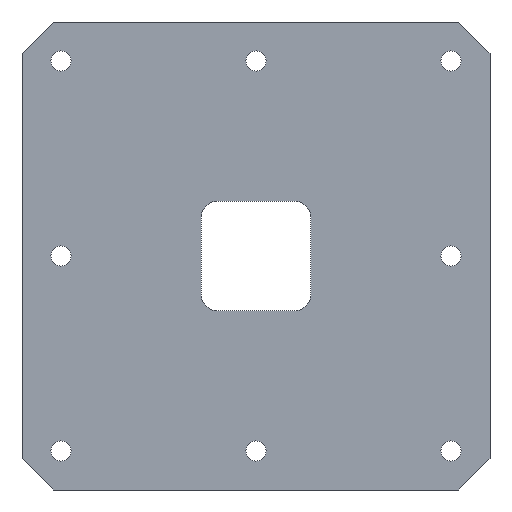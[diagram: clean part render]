
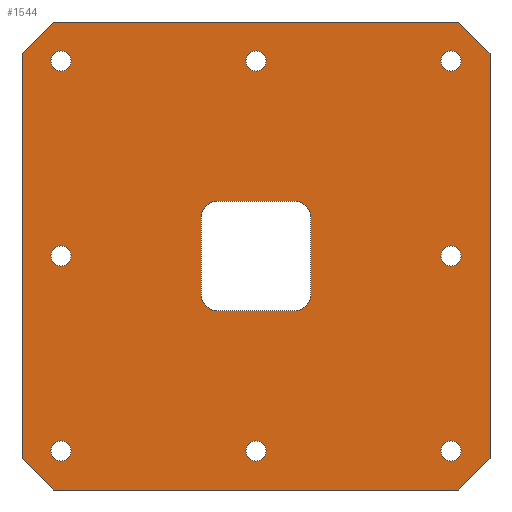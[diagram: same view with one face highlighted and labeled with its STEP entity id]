
A CAD part, front view. The second image highlights one B-rep face of the part: STEP entity #1544.
In plain terms, the highlighted planar face has unit normal (0, -1, 0).
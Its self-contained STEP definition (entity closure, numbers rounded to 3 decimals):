
#1=DIRECTION('',(-0.707,0.,-0.707));
#2=VECTOR('',#1,28.284);
#3=CARTESIAN_POINT('',(-130.,-25.,150.));
#4=LINE('',#3,#2);
#5=DIRECTION('',(1.,0.,0.));
#6=VECTOR('',#5,260.);
#7=CARTESIAN_POINT('',(-130.,-25.,150.));
#8=LINE('',#7,#6);
#9=DIRECTION('',(-0.707,0.,0.707));
#10=VECTOR('',#9,28.284);
#11=CARTESIAN_POINT('',(150.,-25.,130.));
#12=LINE('',#11,#10);
#13=DIRECTION('',(0.,0.,-1.));
#14=VECTOR('',#13,260.);
#15=CARTESIAN_POINT('',(150.,-25.,130.));
#16=LINE('',#15,#14);
#17=DIRECTION('',(0.707,0.,0.707));
#18=VECTOR('',#17,28.284);
#19=CARTESIAN_POINT('',(130.,-25.,-150.));
#20=LINE('',#19,#18);
#21=DIRECTION('',(-1.,0.,0.));
#22=VECTOR('',#21,260.);
#23=CARTESIAN_POINT('',(130.,-25.,-150.));
#24=LINE('',#23,#22);
#25=DIRECTION('',(0.707,0.,-0.707));
#26=VECTOR('',#25,28.284);
#27=CARTESIAN_POINT('',(-150.,-25.,-130.));
#28=LINE('',#27,#26);
#29=DIRECTION('',(0.,0.,1.));
#30=VECTOR('',#29,260.);
#31=CARTESIAN_POINT('',(-150.,-25.,-130.));
#32=LINE('',#31,#30);
#33=CARTESIAN_POINT('',(-125.,-25.,125.));
#34=DIRECTION('',(0.,1.,0.));
#35=DIRECTION('',(1.,0.,0.));
#36=AXIS2_PLACEMENT_3D('',#33,#34,#35);
#38=CARTESIAN_POINT('',(-125.,-25.,125.));
#39=DIRECTION('',(0.,1.,0.));
#40=DIRECTION('',(-1.,0.,0.));
#41=AXIS2_PLACEMENT_3D('',#38,#39,#40);
#43=CARTESIAN_POINT('',(0.,-25.,125.));
#44=DIRECTION('',(0.,1.,0.));
#45=DIRECTION('',(1.,0.,0.));
#46=AXIS2_PLACEMENT_3D('',#43,#44,#45);
#48=CARTESIAN_POINT('',(0.,-25.,125.));
#49=DIRECTION('',(0.,1.,0.));
#50=DIRECTION('',(-1.,0.,0.));
#51=AXIS2_PLACEMENT_3D('',#48,#49,#50);
#53=CARTESIAN_POINT('',(125.,-25.,125.));
#54=DIRECTION('',(0.,1.,0.));
#55=DIRECTION('',(1.,0.,0.));
#56=AXIS2_PLACEMENT_3D('',#53,#54,#55);
#58=CARTESIAN_POINT('',(125.,-25.,125.));
#59=DIRECTION('',(0.,1.,0.));
#60=DIRECTION('',(-1.,0.,0.));
#61=AXIS2_PLACEMENT_3D('',#58,#59,#60);
#63=CARTESIAN_POINT('',(-125.,-25.,-125.));
#64=DIRECTION('',(0.,1.,0.));
#65=DIRECTION('',(0.,0.,1.));
#66=AXIS2_PLACEMENT_3D('',#63,#64,#65);
#68=CARTESIAN_POINT('',(-125.,-25.,-125.));
#69=DIRECTION('',(0.,1.,0.));
#70=DIRECTION('',(0.,0.,-1.));
#71=AXIS2_PLACEMENT_3D('',#68,#69,#70);
#73=CARTESIAN_POINT('',(-125.,-25.,0.));
#74=DIRECTION('',(0.,1.,0.));
#75=DIRECTION('',(0.,0.,1.));
#76=AXIS2_PLACEMENT_3D('',#73,#74,#75);
#78=CARTESIAN_POINT('',(-125.,-25.,0.));
#79=DIRECTION('',(0.,1.,0.));
#80=DIRECTION('',(0.,0.,-1.));
#81=AXIS2_PLACEMENT_3D('',#78,#79,#80);
#83=CARTESIAN_POINT('',(125.,-25.,-125.));
#84=DIRECTION('',(0.,1.,0.));
#85=DIRECTION('',(-1.,0.,0.));
#86=AXIS2_PLACEMENT_3D('',#83,#84,#85);
#88=CARTESIAN_POINT('',(125.,-25.,-125.));
#89=DIRECTION('',(0.,1.,0.));
#90=DIRECTION('',(1.,0.,0.));
#91=AXIS2_PLACEMENT_3D('',#88,#89,#90);
#93=CARTESIAN_POINT('',(0.,-25.,-125.));
#94=DIRECTION('',(0.,1.,0.));
#95=DIRECTION('',(-1.,0.,0.));
#96=AXIS2_PLACEMENT_3D('',#93,#94,#95);
#98=CARTESIAN_POINT('',(0.,-25.,-125.));
#99=DIRECTION('',(0.,1.,0.));
#100=DIRECTION('',(1.,0.,0.));
#101=AXIS2_PLACEMENT_3D('',#98,#99,#100);
#103=CARTESIAN_POINT('',(125.,-25.,0.));
#104=DIRECTION('',(0.,1.,0.));
#105=DIRECTION('',(0.,0.,-1.));
#106=AXIS2_PLACEMENT_3D('',#103,#104,#105);
#108=CARTESIAN_POINT('',(125.,-25.,0.));
#109=DIRECTION('',(0.,1.,0.));
#110=DIRECTION('',(0.,0.,1.));
#111=AXIS2_PLACEMENT_3D('',#108,#109,#110);
#113=DIRECTION('',(-1.,0.,0.));
#114=VECTOR('',#113,50.);
#115=CARTESIAN_POINT('',(25.,-25.,-35.));
#116=LINE('',#115,#114);
#117=DIRECTION('',(0.,0.,-1.));
#118=VECTOR('',#117,50.);
#119=CARTESIAN_POINT('',(35.,-25.,25.));
#120=LINE('',#119,#118);
#121=DIRECTION('',(1.,0.,0.));
#122=VECTOR('',#121,50.);
#123=CARTESIAN_POINT('',(-25.,-25.,35.));
#124=LINE('',#123,#122);
#125=DIRECTION('',(0.,0.,1.));
#126=VECTOR('',#125,50.);
#127=CARTESIAN_POINT('',(-35.,-25.,-25.));
#128=LINE('',#127,#126);
#473=CARTESIAN_POINT('',(-25.,-25.,-25.));
#474=DIRECTION('',(0.,1.,0.));
#475=DIRECTION('',(0.,0.,-1.));
#476=AXIS2_PLACEMENT_3D('',#473,#474,#475);
#495=CARTESIAN_POINT('',(25.,-25.,-25.));
#496=DIRECTION('',(0.,1.,0.));
#497=DIRECTION('',(1.,0.,0.));
#498=AXIS2_PLACEMENT_3D('',#495,#496,#497);
#517=CARTESIAN_POINT('',(25.,-25.,25.));
#518=DIRECTION('',(0.,1.,0.));
#519=DIRECTION('',(0.,0.,1.));
#520=AXIS2_PLACEMENT_3D('',#517,#518,#519);
#539=CARTESIAN_POINT('',(-25.,-25.,25.));
#540=DIRECTION('',(0.,1.,0.));
#541=DIRECTION('',(-1.,0.,0.));
#542=AXIS2_PLACEMENT_3D('',#539,#540,#541);
#1141=CARTESIAN_POINT('',(-130.,-25.,150.));
#1142=CARTESIAN_POINT('',(-150.,-25.,130.));
#1143=VERTEX_POINT('',#1141);
#1144=VERTEX_POINT('',#1142);
#1149=CARTESIAN_POINT('',(-150.,-25.,-130.));
#1150=CARTESIAN_POINT('',(-130.,-25.,-150.));
#1151=VERTEX_POINT('',#1149);
#1152=VERTEX_POINT('',#1150);
#1157=CARTESIAN_POINT('',(130.,-25.,-150.));
#1158=CARTESIAN_POINT('',(150.,-25.,-130.));
#1159=VERTEX_POINT('',#1157);
#1160=VERTEX_POINT('',#1158);
#1165=CARTESIAN_POINT('',(150.,-25.,130.));
#1166=CARTESIAN_POINT('',(130.,-25.,150.));
#1167=VERTEX_POINT('',#1165);
#1168=VERTEX_POINT('',#1166);
#1181=CARTESIAN_POINT('',(-118.5,-25.,125.));
#1182=CARTESIAN_POINT('',(-131.5,-25.,125.));
#1183=VERTEX_POINT('',#1181);
#1184=VERTEX_POINT('',#1182);
#1197=CARTESIAN_POINT('',(6.5,-25.,125.));
#1198=CARTESIAN_POINT('',(-6.5,-25.,125.));
#1199=VERTEX_POINT('',#1197);
#1200=VERTEX_POINT('',#1198);
#1213=CARTESIAN_POINT('',(131.5,-25.,125.));
#1214=CARTESIAN_POINT('',(118.5,-25.,125.));
#1215=VERTEX_POINT('',#1213);
#1216=VERTEX_POINT('',#1214);
#1229=CARTESIAN_POINT('',(-125.,-25.,-118.5));
#1230=VERTEX_POINT('',#1229);
#1233=CARTESIAN_POINT('',(-125.,-25.,-131.5));
#1234=VERTEX_POINT('',#1233);
#1245=CARTESIAN_POINT('',(-125.,-25.,6.5));
#1246=VERTEX_POINT('',#1245);
#1249=CARTESIAN_POINT('',(-125.,-25.,-6.5));
#1250=VERTEX_POINT('',#1249);
#1261=CARTESIAN_POINT('',(118.5,-25.,-125.));
#1262=VERTEX_POINT('',#1261);
#1265=CARTESIAN_POINT('',(131.5,-25.,-125.));
#1266=VERTEX_POINT('',#1265);
#1277=CARTESIAN_POINT('',(-6.5,-25.,-125.));
#1278=VERTEX_POINT('',#1277);
#1281=CARTESIAN_POINT('',(6.5,-25.,-125.));
#1282=VERTEX_POINT('',#1281);
#1293=CARTESIAN_POINT('',(125.,-25.,-6.5));
#1294=VERTEX_POINT('',#1293);
#1297=CARTESIAN_POINT('',(125.,-25.,6.5));
#1298=VERTEX_POINT('',#1297);
#1331=CARTESIAN_POINT('',(-35.,-25.,-25.));
#1332=CARTESIAN_POINT('',(-35.,-25.,25.));
#1333=VERTEX_POINT('',#1331);
#1334=VERTEX_POINT('',#1332);
#1335=CARTESIAN_POINT('',(-25.,-25.,35.));
#1336=CARTESIAN_POINT('',(25.,-25.,35.));
#1337=VERTEX_POINT('',#1335);
#1338=VERTEX_POINT('',#1336);
#1339=CARTESIAN_POINT('',(35.,-25.,25.));
#1340=CARTESIAN_POINT('',(35.,-25.,-25.));
#1341=VERTEX_POINT('',#1339);
#1342=VERTEX_POINT('',#1340);
#1343=CARTESIAN_POINT('',(25.,-25.,-35.));
#1344=CARTESIAN_POINT('',(-25.,-25.,-35.));
#1345=VERTEX_POINT('',#1343);
#1346=VERTEX_POINT('',#1344);
#1455=CARTESIAN_POINT('',(0.,-25.,0.));
#1456=DIRECTION('',(0.,1.,0.));
#1457=DIRECTION('',(1.,0.,0.));
#1458=AXIS2_PLACEMENT_3D('',#1455,#1456,#1457);
#1459=PLANE('',#1458);
#1461=ORIENTED_EDGE('',*,*,#1460,.F.);
#1463=ORIENTED_EDGE('',*,*,#1462,.T.);
#1465=ORIENTED_EDGE('',*,*,#1464,.F.);
#1467=ORIENTED_EDGE('',*,*,#1466,.T.);
#1469=ORIENTED_EDGE('',*,*,#1468,.F.);
#1471=ORIENTED_EDGE('',*,*,#1470,.T.);
#1473=ORIENTED_EDGE('',*,*,#1472,.F.);
#1475=ORIENTED_EDGE('',*,*,#1474,.T.);
#1476=EDGE_LOOP('',(#1461,#1463,#1465,#1467,#1469,#1471,#1473,#1475));
#1477=FACE_OUTER_BOUND('',#1476,.F.);
#1479=ORIENTED_EDGE('',*,*,#1478,.F.);
#1481=ORIENTED_EDGE('',*,*,#1480,.F.);
#1482=EDGE_LOOP('',(#1479,#1481));
#1483=FACE_BOUND('',#1482,.F.);
#1485=ORIENTED_EDGE('',*,*,#1484,.F.);
#1487=ORIENTED_EDGE('',*,*,#1486,.F.);
#1488=EDGE_LOOP('',(#1485,#1487));
#1489=FACE_BOUND('',#1488,.F.);
#1491=ORIENTED_EDGE('',*,*,#1490,.F.);
#1493=ORIENTED_EDGE('',*,*,#1492,.F.);
#1494=EDGE_LOOP('',(#1491,#1493));
#1495=FACE_BOUND('',#1494,.F.);
#1497=ORIENTED_EDGE('',*,*,#1496,.F.);
#1499=ORIENTED_EDGE('',*,*,#1498,.F.);
#1500=EDGE_LOOP('',(#1497,#1499));
#1501=FACE_BOUND('',#1500,.F.);
#1503=ORIENTED_EDGE('',*,*,#1502,.F.);
#1505=ORIENTED_EDGE('',*,*,#1504,.F.);
#1506=EDGE_LOOP('',(#1503,#1505));
#1507=FACE_BOUND('',#1506,.F.);
#1509=ORIENTED_EDGE('',*,*,#1508,.F.);
#1511=ORIENTED_EDGE('',*,*,#1510,.F.);
#1512=EDGE_LOOP('',(#1509,#1511));
#1513=FACE_BOUND('',#1512,.F.);
#1515=ORIENTED_EDGE('',*,*,#1514,.F.);
#1517=ORIENTED_EDGE('',*,*,#1516,.F.);
#1518=EDGE_LOOP('',(#1515,#1517));
#1519=FACE_BOUND('',#1518,.F.);
#1521=ORIENTED_EDGE('',*,*,#1520,.F.);
#1523=ORIENTED_EDGE('',*,*,#1522,.F.);
#1524=EDGE_LOOP('',(#1521,#1523));
#1525=FACE_BOUND('',#1524,.F.);
#1527=ORIENTED_EDGE('',*,*,#1526,.F.);
#1529=ORIENTED_EDGE('',*,*,#1528,.F.);
#1531=ORIENTED_EDGE('',*,*,#1530,.F.);
#1533=ORIENTED_EDGE('',*,*,#1532,.F.);
#1535=ORIENTED_EDGE('',*,*,#1534,.F.);
#1537=ORIENTED_EDGE('',*,*,#1536,.F.);
#1539=ORIENTED_EDGE('',*,*,#1538,.F.);
#1541=ORIENTED_EDGE('',*,*,#1540,.F.);
#1542=EDGE_LOOP('',(#1527,#1529,#1531,#1533,#1535,#1537,#1539,#1541));
#1543=FACE_BOUND('',#1542,.F.);
#1544=ADVANCED_FACE('',(#1477,#1483,#1489,#1495,#1501,#1507,#1513,#1519,#1525,
#1543),#1459,.F.);
#37=CIRCLE('',#36,6.5);
#42=CIRCLE('',#41,6.5);
#47=CIRCLE('',#46,6.5);
#52=CIRCLE('',#51,6.5);
#57=CIRCLE('',#56,6.5);
#62=CIRCLE('',#61,6.5);
#67=CIRCLE('',#66,6.5);
#72=CIRCLE('',#71,6.5);
#77=CIRCLE('',#76,6.5);
#82=CIRCLE('',#81,6.5);
#87=CIRCLE('',#86,6.5);
#92=CIRCLE('',#91,6.5);
#97=CIRCLE('',#96,6.5);
#102=CIRCLE('',#101,6.5);
#107=CIRCLE('',#106,6.5);
#112=CIRCLE('',#111,6.5);
#477=CIRCLE('',#476,10.);
#499=CIRCLE('',#498,10.);
#521=CIRCLE('',#520,10.);
#543=CIRCLE('',#542,10.);
#1460=EDGE_CURVE('',#1143,#1144,#4,.T.);
#1462=EDGE_CURVE('',#1143,#1168,#8,.T.);
#1464=EDGE_CURVE('',#1167,#1168,#12,.T.);
#1466=EDGE_CURVE('',#1167,#1160,#16,.T.);
#1468=EDGE_CURVE('',#1159,#1160,#20,.T.);
#1470=EDGE_CURVE('',#1159,#1152,#24,.T.);
#1472=EDGE_CURVE('',#1151,#1152,#28,.T.);
#1474=EDGE_CURVE('',#1151,#1144,#32,.T.);
#1478=EDGE_CURVE('',#1183,#1184,#37,.T.);
#1480=EDGE_CURVE('',#1184,#1183,#42,.T.);
#1484=EDGE_CURVE('',#1199,#1200,#47,.T.);
#1486=EDGE_CURVE('',#1200,#1199,#52,.T.);
#1490=EDGE_CURVE('',#1215,#1216,#57,.T.);
#1492=EDGE_CURVE('',#1216,#1215,#62,.T.);
#1496=EDGE_CURVE('',#1230,#1234,#67,.T.);
#1498=EDGE_CURVE('',#1234,#1230,#72,.T.);
#1502=EDGE_CURVE('',#1246,#1250,#77,.T.);
#1504=EDGE_CURVE('',#1250,#1246,#82,.T.);
#1508=EDGE_CURVE('',#1262,#1266,#87,.T.);
#1510=EDGE_CURVE('',#1266,#1262,#92,.T.);
#1514=EDGE_CURVE('',#1278,#1282,#97,.T.);
#1516=EDGE_CURVE('',#1282,#1278,#102,.T.);
#1520=EDGE_CURVE('',#1294,#1298,#107,.T.);
#1522=EDGE_CURVE('',#1298,#1294,#112,.T.);
#1526=EDGE_CURVE('',#1345,#1346,#116,.T.);
#1528=EDGE_CURVE('',#1342,#1345,#499,.T.);
#1530=EDGE_CURVE('',#1341,#1342,#120,.T.);
#1532=EDGE_CURVE('',#1338,#1341,#521,.T.);
#1534=EDGE_CURVE('',#1337,#1338,#124,.T.);
#1536=EDGE_CURVE('',#1334,#1337,#543,.T.);
#1538=EDGE_CURVE('',#1333,#1334,#128,.T.);
#1540=EDGE_CURVE('',#1346,#1333,#477,.T.);
